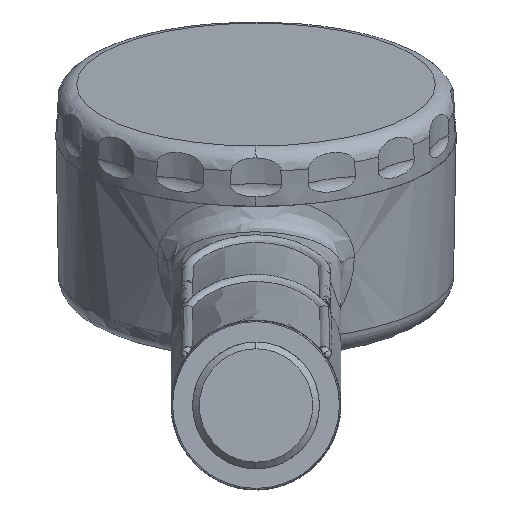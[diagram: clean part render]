
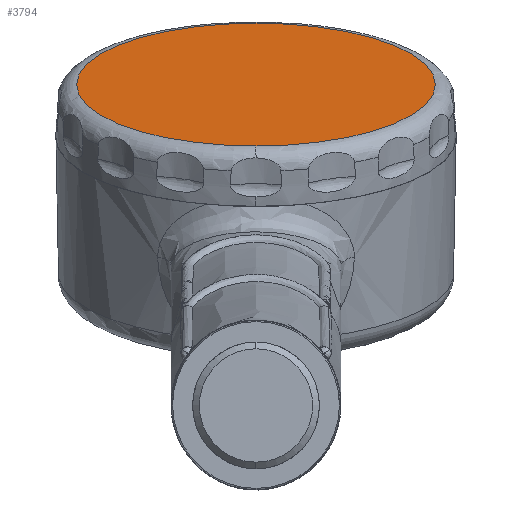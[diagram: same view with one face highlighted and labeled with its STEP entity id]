
A CAD part, front view. The second image highlights one B-rep face of the part: STEP entity #3794.
In plain terms, the highlighted planar face has unit normal (0, -0.342, 0.94).
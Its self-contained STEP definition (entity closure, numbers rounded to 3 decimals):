
#81 = CIRCLE ( 'NONE', #2841, 26.904 ) ;
#122 = CARTESIAN_POINT ( 'NONE',  ( 0., 242.156, 92.026 ) ) ;
#271 = CARTESIAN_POINT ( 'NONE',  ( 0., 204.234, 78.224 ) ) ;
#301 = AXIS2_PLACEMENT_3D ( 'NONE', #122, #4584, #756 ) ;
#347 = EDGE_LOOP ( 'NONE', ( #1633, #6928 ) ) ;
#360 = EDGE_CURVE ( 'NONE', #8021, #6325, #81, .T. ) ;
#756 = DIRECTION ( 'NONE',  ( -1., 0., 0. ) ) ;
#844 = CIRCLE ( 'NONE', #4762, 26.904 ) ;
#1598 = CARTESIAN_POINT ( 'NONE',  ( 0., 229.515, 87.425 ) ) ;
#1633 = ORIENTED_EDGE ( 'NONE', *, *, #360, .T. ) ;
#2091 = FACE_OUTER_BOUND ( 'NONE', #347, .T. ) ;
#2257 = DIRECTION ( 'NONE',  ( 0., -0.94, -0.342 ) ) ;
#2841 = AXIS2_PLACEMENT_3D ( 'NONE', #4211, #5453, #6132 ) ;
#3794 = ADVANCED_FACE ( 'NONE', ( #2091 ), #4555, .F. ) ;
#4211 = CARTESIAN_POINT ( 'NONE',  ( 0., 229.515, 87.425 ) ) ;
#4547 = CARTESIAN_POINT ( 'NONE',  ( 0., 254.796, 96.627 ) ) ;
#4555 = PLANE ( 'NONE',  #301 ) ;
#4584 = DIRECTION ( 'NONE',  ( 0., 0.342, -0.94 ) ) ;
#4762 = AXIS2_PLACEMENT_3D ( 'NONE', #1598, #6081, #2257 ) ;
#5453 = DIRECTION ( 'NONE',  ( 0., -0.342, 0.94 ) ) ;
#6081 = DIRECTION ( 'NONE',  ( 0., -0.342, 0.94 ) ) ;
#6132 = DIRECTION ( 'NONE',  ( 0., -0.94, -0.342 ) ) ;
#6325 = VERTEX_POINT ( 'NONE', #4547 ) ;
#6928 = ORIENTED_EDGE ( 'NONE', *, *, #8051, .T. ) ;
#8021 = VERTEX_POINT ( 'NONE', #271 ) ;
#8051 = EDGE_CURVE ( 'NONE', #6325, #8021, #844, .T. ) ;
